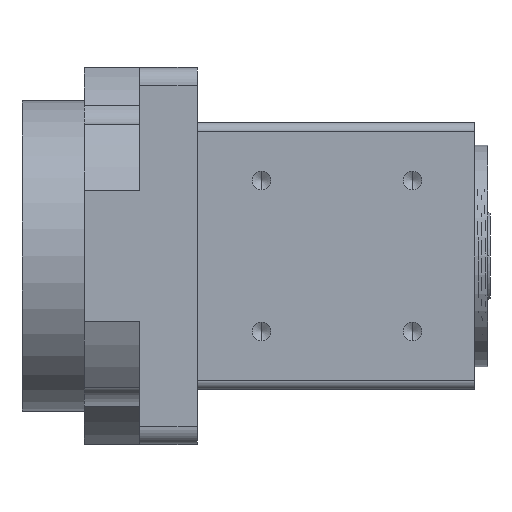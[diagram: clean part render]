
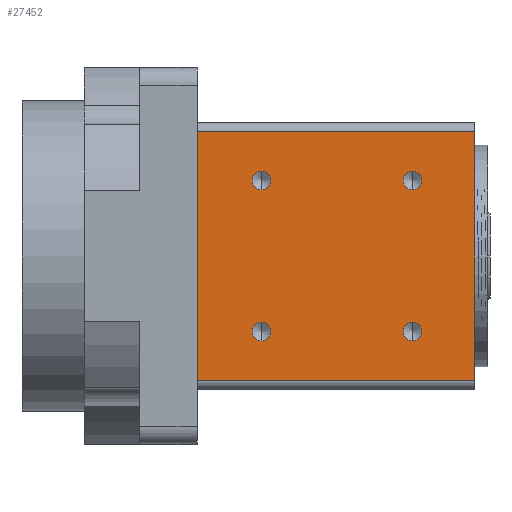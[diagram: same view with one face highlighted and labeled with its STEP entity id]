
A CAD part, left-side view. The second image highlights one B-rep face of the part: STEP entity #27452.
In plain terms, the highlighted planar face has unit normal (-1, 0, 0) as drawn and (0, 1, 0) by its records, which use the part's own axes.
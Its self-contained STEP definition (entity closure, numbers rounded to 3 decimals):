
#857 = CARTESIAN_POINT ( 'NONE',  ( -17., 32., 48.9 ) ) ;
#2033 = CARTESIAN_POINT ( 'NONE',  ( 17., 32., 17. ) ) ;
#2705 = VECTOR ( 'NONE', #41140, 1000. ) ;
#3260 = EDGE_LOOP ( 'NONE', ( #47745, #58184, #27463, #61950 ) ) ;
#4261 = EDGE_CURVE ( 'NONE', #56495, #30739, #54278, .T. ) ;
#4433 = AXIS2_PLACEMENT_3D ( 'NONE', #52007, #51923, #51836 ) ;
#6467 = CARTESIAN_POINT ( 'NONE',  ( 17., 32., 51. ) ) ;
#7477 = DIRECTION ( 'NONE',  ( 0., 0., 1. ) ) ;
#7703 = CARTESIAN_POINT ( 'NONE',  ( 17., 32., 53.1 ) ) ;
#7783 = EDGE_CURVE ( 'NONE', #50295, #66936, #43230, .T. ) ;
#9243 = VERTEX_POINT ( 'NONE', #67429 ) ;
#9659 = CIRCLE ( 'NONE', #54618, 2.1 ) ;
#10114 = EDGE_CURVE ( 'NONE', #13720, #64358, #33619, .T. ) ;
#10456 = DIRECTION ( 'NONE',  ( 0., 1., 0. ) ) ;
#11934 = DIRECTION ( 'NONE',  ( 0., 0., 1. ) ) ;
#12049 = CARTESIAN_POINT ( 'NONE',  ( 17., 32., 14.9 ) ) ;
#12893 = EDGE_LOOP ( 'NONE', ( #64344, #25176 ) ) ;
#13056 = CARTESIAN_POINT ( 'NONE',  ( 28., 32., 65.5 ) ) ;
#13212 = EDGE_LOOP ( 'NONE', ( #30954, #50396 ) ) ;
#13720 = VERTEX_POINT ( 'NONE', #7703 ) ;
#14519 = LINE ( 'NONE', #66284, #41613 ) ;
#15200 = AXIS2_PLACEMENT_3D ( 'NONE', #60943, #28237, #66408 ) ;
#15328 = CARTESIAN_POINT ( 'NONE',  ( -28., 32., 3. ) ) ;
#17752 = VECTOR ( 'NONE', #57828, 1000. ) ;
#17849 = EDGE_CURVE ( 'NONE', #58940, #31632, #26287, .T. ) ;
#18147 = CARTESIAN_POINT ( 'NONE',  ( -17., 32., 17. ) ) ;
#19012 = EDGE_CURVE ( 'NONE', #30739, #49088, #14519, .T. ) ;
#22638 = PLANE ( 'NONE',  #15200 ) ;
#23561 = ORIENTED_EDGE ( 'NONE', *, *, #51161, .F. ) ;
#23563 = DIRECTION ( 'NONE',  ( 0., 0., 1. ) ) ;
#24335 = AXIS2_PLACEMENT_3D ( 'NONE', #38964, #38899, #38634 ) ;
#25176 = ORIENTED_EDGE ( 'NONE', *, *, #25686, .F. ) ;
#25304 = CARTESIAN_POINT ( 'NONE',  ( -17., 32., 53.1 ) ) ;
#25686 = EDGE_CURVE ( 'NONE', #31632, #58940, #57349, .T. ) ;
#26287 = CIRCLE ( 'NONE', #4433, 2.1 ) ;
#27418 = DIRECTION ( 'NONE',  ( 0., 1., 0. ) ) ;
#27452 = ADVANCED_FACE ( 'NONE', ( #41764, #56329, #69023, #54565, #40051 ), #22638, .F. ) ;
#27463 = ORIENTED_EDGE ( 'NONE', *, *, #4261, .F. ) ;
#27889 = VERTEX_POINT ( 'NONE', #53065 ) ;
#28237 = DIRECTION ( 'NONE',  ( 0., -1., 0. ) ) ;
#29721 = AXIS2_PLACEMENT_3D ( 'NONE', #18147, #56210, #23563 ) ;
#30739 = VERTEX_POINT ( 'NONE', #57522 ) ;
#30954 = ORIENTED_EDGE ( 'NONE', *, *, #67085, .F. ) ;
#31632 = VERTEX_POINT ( 'NONE', #12049 ) ;
#33399 = CIRCLE ( 'NONE', #29721, 2.1 ) ;
#33619 = CIRCLE ( 'NONE', #41703, 2.1 ) ;
#34093 = CARTESIAN_POINT ( 'NONE',  ( -28., 32., 65.5 ) ) ;
#34779 = LINE ( 'NONE', #38545, #47593 ) ;
#35152 = ORIENTED_EDGE ( 'NONE', *, *, #10114, .F. ) ;
#36995 = ORIENTED_EDGE ( 'NONE', *, *, #50197, .F. ) ;
#38172 = EDGE_CURVE ( 'NONE', #64358, #13720, #54604, .T. ) ;
#38545 = CARTESIAN_POINT ( 'NONE',  ( -28., 32., 68.5 ) ) ;
#38634 = DIRECTION ( 'NONE',  ( 0., 0., 1. ) ) ;
#38899 = DIRECTION ( 'NONE',  ( 0., 1., 0. ) ) ;
#38964 = CARTESIAN_POINT ( 'NONE',  ( -17., 32., 51. ) ) ;
#39872 = DIRECTION ( 'NONE',  ( 0., 1., 0. ) ) ;
#40051 = FACE_OUTER_BOUND ( 'NONE', #3260, .T. ) ;
#40074 = EDGE_CURVE ( 'NONE', #49088, #45559, #60430, .T. ) ;
#40491 = CARTESIAN_POINT ( 'NONE',  ( 17., 32., 48.9 ) ) ;
#41140 = DIRECTION ( 'NONE',  ( -1., 0., 0. ) ) ;
#41613 = VECTOR ( 'NONE', #66193, 1000. ) ;
#41703 = AXIS2_PLACEMENT_3D ( 'NONE', #62593, #62364, #62180 ) ;
#41764 = FACE_BOUND ( 'NONE', #12893, .T. ) ;
#42897 = CARTESIAN_POINT ( 'NONE',  ( -17., 32., 51. ) ) ;
#43230 = CIRCLE ( 'NONE', #24335, 2.1 ) ;
#44331 = DIRECTION ( 'NONE',  ( 0., 1., 0. ) ) ;
#45559 = VERTEX_POINT ( 'NONE', #34093 ) ;
#46530 = EDGE_LOOP ( 'NONE', ( #35152, #48698 ) ) ;
#47593 = VECTOR ( 'NONE', #65971, 1000. ) ;
#47745 = ORIENTED_EDGE ( 'NONE', *, *, #40074, .F. ) ;
#48376 = DIRECTION ( 'NONE',  ( 0., 0., 1. ) ) ;
#48698 = ORIENTED_EDGE ( 'NONE', *, *, #38172, .F. ) ;
#48981 = CARTESIAN_POINT ( 'NONE',  ( 17., 32., 19.1 ) ) ;
#49088 = VERTEX_POINT ( 'NONE', #13056 ) ;
#50197 = EDGE_CURVE ( 'NONE', #27889, #9243, #61713, .T. ) ;
#50295 = VERTEX_POINT ( 'NONE', #857 ) ;
#50396 = ORIENTED_EDGE ( 'NONE', *, *, #7783, .F. ) ;
#51161 = EDGE_CURVE ( 'NONE', #9243, #27889, #33399, .T. ) ;
#51836 = DIRECTION ( 'NONE',  ( 0., 0., 1. ) ) ;
#51909 = CARTESIAN_POINT ( 'NONE',  ( 0., 32., 65.5 ) ) ;
#51923 = DIRECTION ( 'NONE',  ( 0., 1., 0. ) ) ;
#52007 = CARTESIAN_POINT ( 'NONE',  ( 17., 32., 17. ) ) ;
#53065 = CARTESIAN_POINT ( 'NONE',  ( -17., 32., 19.1 ) ) ;
#53066 = AXIS2_PLACEMENT_3D ( 'NONE', #6467, #44331, #11934 ) ;
#54278 = LINE ( 'NONE', #57363, #17752 ) ;
#54565 = FACE_BOUND ( 'NONE', #13212, .T. ) ;
#54604 = CIRCLE ( 'NONE', #53066, 2.1 ) ;
#54618 = AXIS2_PLACEMENT_3D ( 'NONE', #42897, #10456, #48376 ) ;
#55468 = EDGE_LOOP ( 'NONE', ( #36995, #23561 ) ) ;
#55816 = AXIS2_PLACEMENT_3D ( 'NONE', #60145, #27418, #65579 ) ;
#56210 = DIRECTION ( 'NONE',  ( 0., 1., 0. ) ) ;
#56329 = FACE_BOUND ( 'NONE', #46530, .T. ) ;
#56495 = VERTEX_POINT ( 'NONE', #15328 ) ;
#57231 = EDGE_CURVE ( 'NONE', #45559, #56495, #34779, .T. ) ;
#57349 = CIRCLE ( 'NONE', #67011, 2.1 ) ;
#57363 = CARTESIAN_POINT ( 'NONE',  ( 0., 32., 3. ) ) ;
#57522 = CARTESIAN_POINT ( 'NONE',  ( 28., 32., 3. ) ) ;
#57828 = DIRECTION ( 'NONE',  ( 1., 0., 0. ) ) ;
#58184 = ORIENTED_EDGE ( 'NONE', *, *, #19012, .F. ) ;
#58940 = VERTEX_POINT ( 'NONE', #48981 ) ;
#60145 = CARTESIAN_POINT ( 'NONE',  ( -17., 32., 17. ) ) ;
#60430 = LINE ( 'NONE', #51909, #2705 ) ;
#60943 = CARTESIAN_POINT ( 'NONE',  ( -30., 32., 68.5 ) ) ;
#61713 = CIRCLE ( 'NONE', #55816, 2.1 ) ;
#61950 = ORIENTED_EDGE ( 'NONE', *, *, #57231, .F. ) ;
#62180 = DIRECTION ( 'NONE',  ( 0., 0., 1. ) ) ;
#62364 = DIRECTION ( 'NONE',  ( 0., 1., 0. ) ) ;
#62593 = CARTESIAN_POINT ( 'NONE',  ( 17., 32., 51. ) ) ;
#64344 = ORIENTED_EDGE ( 'NONE', *, *, #17849, .F. ) ;
#64358 = VERTEX_POINT ( 'NONE', #40491 ) ;
#65579 = DIRECTION ( 'NONE',  ( 0., 0., 1. ) ) ;
#65971 = DIRECTION ( 'NONE',  ( 0., 0., -1. ) ) ;
#66193 = DIRECTION ( 'NONE',  ( 0., 0., 1. ) ) ;
#66284 = CARTESIAN_POINT ( 'NONE',  ( 28., 32., 68.5 ) ) ;
#66408 = DIRECTION ( 'NONE',  ( 0., 0., -1. ) ) ;
#66936 = VERTEX_POINT ( 'NONE', #25304 ) ;
#67011 = AXIS2_PLACEMENT_3D ( 'NONE', #2033, #39872, #7477 ) ;
#67085 = EDGE_CURVE ( 'NONE', #66936, #50295, #9659, .T. ) ;
#67429 = CARTESIAN_POINT ( 'NONE',  ( -17., 32., 14.9 ) ) ;
#69023 = FACE_BOUND ( 'NONE', #55468, .T. ) ;
